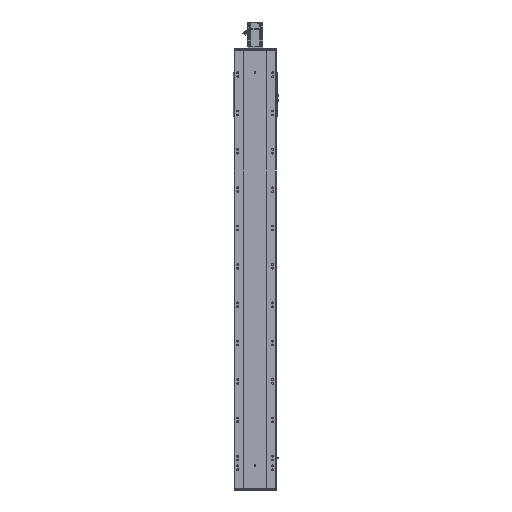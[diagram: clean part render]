
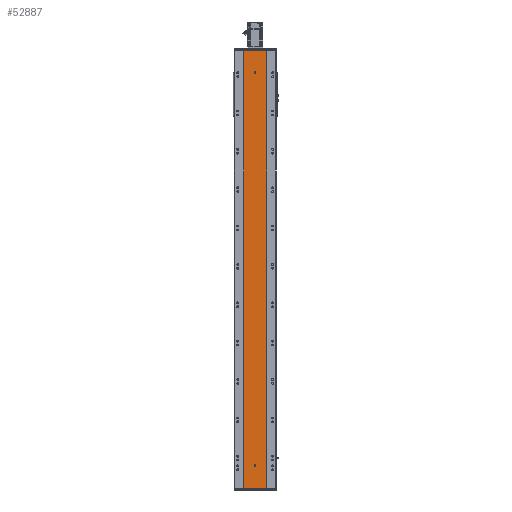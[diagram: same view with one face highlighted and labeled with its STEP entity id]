
A CAD part, front view. The second image highlights one B-rep face of the part: STEP entity #52887.
In plain terms, the highlighted planar face has unit normal (0, -1, 0).
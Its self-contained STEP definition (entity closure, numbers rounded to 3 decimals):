
#48 = CARTESIAN_POINT ( 'NONE',  ( 0., 0., 119.5 ) ) ;
#1276 = VERTEX_POINT ( 'NONE', #16566 ) ;
#2568 = CARTESIAN_POINT ( 'NONE',  ( -60., 0., 2282. ) ) ;
#3833 = VECTOR ( 'NONE', #75712, 1000. ) ;
#4151 = VERTEX_POINT ( 'NONE', #30501 ) ;
#4872 = ORIENTED_EDGE ( 'NONE', *, *, #64448, .F. ) ;
#6224 = DIRECTION ( 'NONE',  ( 0., -1., 0. ) ) ;
#6479 = DIRECTION ( 'NONE',  ( 0., 0., -1. ) ) ;
#6492 = VECTOR ( 'NONE', #6479, 1000. ) ;
#7694 = VECTOR ( 'NONE', #23093, 1000. ) ;
#8557 = DIRECTION ( 'NONE',  ( 0., 0., -1. ) ) ;
#8632 = LINE ( 'NONE', #41139, #7694 ) ;
#8901 = VECTOR ( 'NONE', #32885, 1000. ) ;
#9006 = CARTESIAN_POINT ( 'NONE',  ( 0., 0., 2168. ) ) ;
#9322 = CIRCLE ( 'NONE', #37688, 4. ) ;
#9326 = CIRCLE ( 'NONE', #45509, 4. ) ;
#11631 = DIRECTION ( 'NONE',  ( 0., 0., -1. ) ) ;
#13485 = ORIENTED_EDGE ( 'NONE', *, *, #66203, .F. ) ;
#14389 = CARTESIAN_POINT ( 'NONE',  ( -60., 0., 2282. ) ) ;
#14466 = ORIENTED_EDGE ( 'NONE', *, *, #75352, .F. ) ;
#15321 = ORIENTED_EDGE ( 'NONE', *, *, #42485, .T. ) ;
#15429 = DIRECTION ( 'NONE',  ( 0., -1., 0. ) ) ;
#16566 = CARTESIAN_POINT ( 'NONE',  ( 0., 0., 112.5 ) ) ;
#17850 = EDGE_CURVE ( 'NONE', #17921, #26026, #20274, .T. ) ;
#17921 = VERTEX_POINT ( 'NONE', #45300 ) ;
#18331 = VERTEX_POINT ( 'NONE', #31438 ) ;
#19639 = VECTOR ( 'NONE', #76203, 1000. ) ;
#20274 = LINE ( 'NONE', #75181, #3833 ) ;
#20669 = DIRECTION ( 'NONE',  ( 0., -1., 0. ) ) ;
#20921 = DIRECTION ( 'NONE',  ( 0., 0., 1. ) ) ;
#20992 = CARTESIAN_POINT ( 'NONE',  ( -4., 0., 119.5 ) ) ;
#21393 = CARTESIAN_POINT ( 'NONE',  ( 0., 0., 116.5 ) ) ;
#23093 = DIRECTION ( 'NONE',  ( 0., 0., -1. ) ) ;
#26026 = VERTEX_POINT ( 'NONE', #30479 ) ;
#26447 = ORIENTED_EDGE ( 'NONE', *, *, #69161, .T. ) ;
#26879 = CIRCLE ( 'NONE', #60567, 4. ) ;
#27052 = PLANE ( 'NONE',  #78838 ) ;
#27098 = ORIENTED_EDGE ( 'NONE', *, *, #28919, .F. ) ;
#27682 = CARTESIAN_POINT ( 'NONE',  ( -60., 0., 0. ) ) ;
#28358 = VERTEX_POINT ( 'NONE', #41249 ) ;
#28919 = EDGE_CURVE ( 'NONE', #45532, #4151, #8632, .T. ) ;
#30159 = CARTESIAN_POINT ( 'NONE',  ( -60., 0., 2282. ) ) ;
#30479 = CARTESIAN_POINT ( 'NONE',  ( 4., 0., 119.5 ) ) ;
#30501 = CARTESIAN_POINT ( 'NONE',  ( -4., 0., 116.5 ) ) ;
#31438 = CARTESIAN_POINT ( 'NONE',  ( 0., 0., 2172. ) ) ;
#31758 = CARTESIAN_POINT ( 'NONE',  ( 0., 0., 2164. ) ) ;
#32474 = ORIENTED_EDGE ( 'NONE', *, *, #70291, .F. ) ;
#32500 = ORIENTED_EDGE ( 'NONE', *, *, #17850, .F. ) ;
#32885 = DIRECTION ( 'NONE',  ( 1., 0., 0. ) ) ;
#33734 = DIRECTION ( 'NONE',  ( 0., -1., 0. ) ) ;
#33979 = FACE_OUTER_BOUND ( 'NONE', #43911, .T. ) ;
#37322 = VECTOR ( 'NONE', #74588, 1000. ) ;
#37688 = AXIS2_PLACEMENT_3D ( 'NONE', #9006, #15429, #64148 ) ;
#38711 = ORIENTED_EDGE ( 'NONE', *, *, #42506, .F. ) ;
#39942 = DIRECTION ( 'NONE',  ( 0., 0., -1. ) ) ;
#40090 = DIRECTION ( 'NONE',  ( 0., 0., -1. ) ) ;
#40713 = FACE_BOUND ( 'NONE', #64769, .T. ) ;
#41139 = CARTESIAN_POINT ( 'NONE',  ( -4., 0., 116.5 ) ) ;
#41249 = CARTESIAN_POINT ( 'NONE',  ( 60., 0., 0. ) ) ;
#42485 = EDGE_CURVE ( 'NONE', #79756, #73081, #44039, .T. ) ;
#42506 = EDGE_CURVE ( 'NONE', #56318, #28358, #53714, .T. ) ;
#43911 = EDGE_LOOP ( 'NONE', ( #26447, #38711, #32474, #15321 ) ) ;
#44039 = LINE ( 'NONE', #30159, #6492 ) ;
#45300 = CARTESIAN_POINT ( 'NONE',  ( 4., 0., 116.5 ) ) ;
#45509 = AXIS2_PLACEMENT_3D ( 'NONE', #21393, #33734, #39942 ) ;
#45532 = VERTEX_POINT ( 'NONE', #20992 ) ;
#45568 = ORIENTED_EDGE ( 'NONE', *, *, #65020, .F. ) ;
#47685 = EDGE_CURVE ( 'NONE', #4151, #1276, #26879, .T. ) ;
#48499 = LINE ( 'NONE', #27682, #19639 ) ;
#50627 = CARTESIAN_POINT ( 'NONE',  ( 60., 0., 2282. ) ) ;
#51943 = CARTESIAN_POINT ( 'NONE',  ( -60., 0., 0. ) ) ;
#52887 = ADVANCED_FACE ( 'NONE', ( #40713, #78326, #33979 ), #27052, .F. ) ;
#53714 = LINE ( 'NONE', #50627, #37322 ) ;
#56054 = LINE ( 'NONE', #14389, #8901 ) ;
#56318 = VERTEX_POINT ( 'NONE', #76095 ) ;
#57508 = DIRECTION ( 'NONE',  ( 0., 1., 0. ) ) ;
#58585 = CARTESIAN_POINT ( 'NONE',  ( 0., 0., 116.5 ) ) ;
#58605 = CIRCLE ( 'NONE', #78957, 4. ) ;
#60567 = AXIS2_PLACEMENT_3D ( 'NONE', #58585, #20669, #8557 ) ;
#61525 = AXIS2_PLACEMENT_3D ( 'NONE', #48, #6224, #11631 ) ;
#63760 = EDGE_LOOP ( 'NONE', ( #32500, #14466, #70205, #27098, #13485 ) ) ;
#64148 = DIRECTION ( 'NONE',  ( 0., 0., -1. ) ) ;
#64448 = EDGE_CURVE ( 'NONE', #66281, #18331, #9322, .T. ) ;
#64769 = EDGE_LOOP ( 'NONE', ( #4872, #45568 ) ) ;
#65020 = EDGE_CURVE ( 'NONE', #18331, #66281, #58605, .T. ) ;
#66203 = EDGE_CURVE ( 'NONE', #26026, #45532, #70932, .T. ) ;
#66281 = VERTEX_POINT ( 'NONE', #31758 ) ;
#69161 = EDGE_CURVE ( 'NONE', #73081, #28358, #48499, .T. ) ;
#69984 = DIRECTION ( 'NONE',  ( 0., -1., 0. ) ) ;
#70205 = ORIENTED_EDGE ( 'NONE', *, *, #47685, .F. ) ;
#70291 = EDGE_CURVE ( 'NONE', #79756, #56318, #56054, .T. ) ;
#70932 = CIRCLE ( 'NONE', #61525, 4. ) ;
#73081 = VERTEX_POINT ( 'NONE', #51943 ) ;
#74588 = DIRECTION ( 'NONE',  ( 0., 0., -1. ) ) ;
#75181 = CARTESIAN_POINT ( 'NONE',  ( 4., 0., 116.5 ) ) ;
#75352 = EDGE_CURVE ( 'NONE', #1276, #17921, #9326, .T. ) ;
#75712 = DIRECTION ( 'NONE',  ( 0., 0., 1. ) ) ;
#75929 = CARTESIAN_POINT ( 'NONE',  ( 0., 0., 2168. ) ) ;
#76095 = CARTESIAN_POINT ( 'NONE',  ( 60., 0., 2282. ) ) ;
#76203 = DIRECTION ( 'NONE',  ( 1., 0., 0. ) ) ;
#76438 = CARTESIAN_POINT ( 'NONE',  ( -60., 0., 2282. ) ) ;
#78326 = FACE_BOUND ( 'NONE', #63760, .T. ) ;
#78838 = AXIS2_PLACEMENT_3D ( 'NONE', #2568, #57508, #20921 ) ;
#78957 = AXIS2_PLACEMENT_3D ( 'NONE', #75929, #69984, #40090 ) ;
#79756 = VERTEX_POINT ( 'NONE', #76438 ) ;
